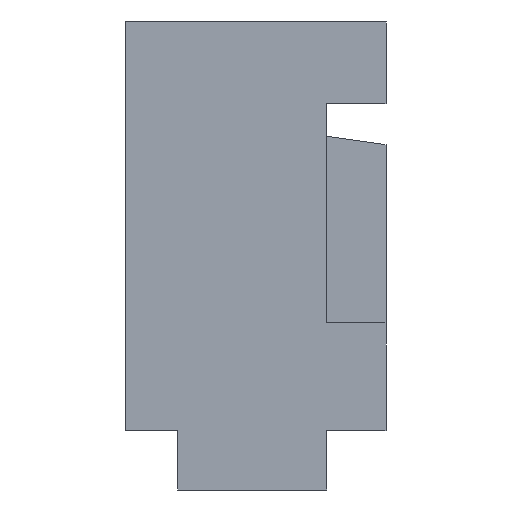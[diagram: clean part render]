
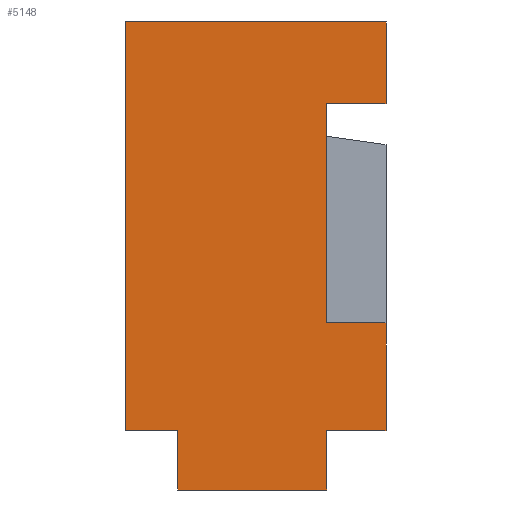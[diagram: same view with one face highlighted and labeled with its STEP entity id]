
A CAD part, left-side view. The second image highlights one B-rep face of the part: STEP entity #5148.
In plain terms, the highlighted planar face has unit normal (-1, 0, 0).
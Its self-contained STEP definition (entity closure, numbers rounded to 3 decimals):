
#5 = CARTESIAN_POINT ( 'NONE',  ( -2.262, 0.285, -2.75 ) ) ;
#29 = DIRECTION ( 'NONE',  ( 0., 0., -1. ) ) ;
#174 = LINE ( 'NONE', #10632, #3178 ) ;
#299 = EDGE_CURVE ( 'NONE', #7155, #11739, #6711, .T. ) ;
#1027 = EDGE_CURVE ( 'NONE', #9732, #8981, #9480, .T. ) ;
#1201 = CARTESIAN_POINT ( 'NONE',  ( -2.262, 0.985, -2.75 ) ) ;
#1521 = LINE ( 'NONE', #12054, #11514 ) ;
#1812 = DIRECTION ( 'NONE',  ( 0., 1., 0. ) ) ;
#1852 = ORIENTED_EDGE ( 'NONE', *, *, #4135, .T. ) ;
#2153 = VECTOR ( 'NONE', #11614, 1000. ) ;
#2236 = EDGE_LOOP ( 'NONE', ( #3797, #8852, #12982, #1852, #10588, #8800, #9438, #13349, #3747, #12592, #7078, #3391 ) ) ;
#2562 = DIRECTION ( 'NONE',  ( 0., 0., -1. ) ) ;
#2580 = VECTOR ( 'NONE', #12194, 1000. ) ;
#2684 = LINE ( 'NONE', #6857, #2580 ) ;
#2792 = VERTEX_POINT ( 'NONE', #12261 ) ;
#2901 = CARTESIAN_POINT ( 'NONE',  ( -2.262, 0.985, 2.75 ) ) ;
#3178 = VECTOR ( 'NONE', #12750, 1000. ) ;
#3209 = VECTOR ( 'NONE', #11601, 1000. ) ;
#3264 = LINE ( 'NONE', #1201, #3209 ) ;
#3391 = ORIENTED_EDGE ( 'NONE', *, *, #12675, .T. ) ;
#3747 = ORIENTED_EDGE ( 'NONE', *, *, #11140, .F. ) ;
#3797 = ORIENTED_EDGE ( 'NONE', *, *, #7932, .F. ) ;
#3800 = CARTESIAN_POINT ( 'NONE',  ( -2.262, 0.985, 2.75 ) ) ;
#3854 = CARTESIAN_POINT ( 'NONE',  ( -2.262, 0.985, 2.75 ) ) ;
#3963 = CARTESIAN_POINT ( 'NONE',  ( -2.262, -1.715, -1.3 ) ) ;
#4042 = CARTESIAN_POINT ( 'NONE',  ( -2.262, -2.515, 2.75 ) ) ;
#4135 = EDGE_CURVE ( 'NONE', #5778, #5904, #174, .T. ) ;
#4416 = VERTEX_POINT ( 'NONE', #5 ) ;
#4538 = EDGE_CURVE ( 'NONE', #12509, #4416, #8754, .T. ) ;
#4594 = CARTESIAN_POINT ( 'NONE',  ( -2.262, -2.515, 1.65 ) ) ;
#4644 = DIRECTION ( 'NONE',  ( 0., -1., 0. ) ) ;
#4830 = PLANE ( 'NONE',  #10845 ) ;
#5148 = ADVANCED_FACE ( 'NONE', ( #12147 ), #4830, .F. ) ;
#5193 = CARTESIAN_POINT ( 'NONE',  ( -2.262, 0.285, -3.55 ) ) ;
#5321 = LINE ( 'NONE', #5193, #2153 ) ;
#5476 = EDGE_CURVE ( 'NONE', #7155, #12509, #13105, .T. ) ;
#5519 = VERTEX_POINT ( 'NONE', #9876 ) ;
#5778 = VERTEX_POINT ( 'NONE', #12610 ) ;
#5904 = VERTEX_POINT ( 'NONE', #4594 ) ;
#6562 = EDGE_CURVE ( 'NONE', #9732, #10285, #9675, .T. ) ;
#6711 = LINE ( 'NONE', #10884, #7704 ) ;
#6842 = DIRECTION ( 'NONE',  ( 0., -1., 0. ) ) ;
#6857 = CARTESIAN_POINT ( 'NONE',  ( -2.262, -2.515, 2.75 ) ) ;
#7078 = ORIENTED_EDGE ( 'NONE', *, *, #6562, .T. ) ;
#7155 = VERTEX_POINT ( 'NONE', #2901 ) ;
#7704 = VECTOR ( 'NONE', #6842, 1000. ) ;
#7932 = EDGE_CURVE ( 'NONE', #2792, #11437, #1521, .T. ) ;
#8127 = DIRECTION ( 'NONE',  ( 0., 0., -1. ) ) ;
#8448 = CARTESIAN_POINT ( 'NONE',  ( -2.262, -1.715, -1.3 ) ) ;
#8463 = CARTESIAN_POINT ( 'NONE',  ( -2.262, -1.715, -3.55 ) ) ;
#8661 = DIRECTION ( 'NONE',  ( 0., 1., 0. ) ) ;
#8754 = LINE ( 'NONE', #9782, #11256 ) ;
#8800 = ORIENTED_EDGE ( 'NONE', *, *, #299, .F. ) ;
#8852 = ORIENTED_EDGE ( 'NONE', *, *, #12086, .F. ) ;
#8981 = VERTEX_POINT ( 'NONE', #9533 ) ;
#9041 = CARTESIAN_POINT ( 'NONE',  ( -2.262, -1.715, -2.75 ) ) ;
#9278 = CARTESIAN_POINT ( 'NONE',  ( -2.262, 0.985, -2.75 ) ) ;
#9438 = ORIENTED_EDGE ( 'NONE', *, *, #5476, .T. ) ;
#9480 = LINE ( 'NONE', #8463, #9711 ) ;
#9533 = CARTESIAN_POINT ( 'NONE',  ( -2.262, 0.285, -3.55 ) ) ;
#9616 = DIRECTION ( 'NONE',  ( 0., 0., 1. ) ) ;
#9675 = LINE ( 'NONE', #11935, #12569 ) ;
#9711 = VECTOR ( 'NONE', #8661, 1000. ) ;
#9732 = VERTEX_POINT ( 'NONE', #12372 ) ;
#9782 = CARTESIAN_POINT ( 'NONE',  ( -2.262, 0.985, -2.75 ) ) ;
#9876 = CARTESIAN_POINT ( 'NONE',  ( -2.262, -1.715, -1.3 ) ) ;
#9907 = VECTOR ( 'NONE', #29, 1000. ) ;
#10285 = VERTEX_POINT ( 'NONE', #9041 ) ;
#10333 = EDGE_CURVE ( 'NONE', #11739, #5904, #2684, .T. ) ;
#10588 = ORIENTED_EDGE ( 'NONE', *, *, #10333, .F. ) ;
#10632 = CARTESIAN_POINT ( 'NONE',  ( -2.262, -1.715, 1.65 ) ) ;
#10684 = VECTOR ( 'NONE', #11356, 1000. ) ;
#10845 = AXIS2_PLACEMENT_3D ( 'NONE', #3800, #11182, #1812 ) ;
#10884 = CARTESIAN_POINT ( 'NONE',  ( -2.262, 0.985, 2.75 ) ) ;
#11140 = EDGE_CURVE ( 'NONE', #8981, #4416, #5321, .T. ) ;
#11182 = DIRECTION ( 'NONE',  ( 1., 0., 0. ) ) ;
#11256 = VECTOR ( 'NONE', #4644, 1000. ) ;
#11280 = VECTOR ( 'NONE', #2562, 1000. ) ;
#11356 = DIRECTION ( 'NONE',  ( 0., -1., 0. ) ) ;
#11437 = VERTEX_POINT ( 'NONE', #12686 ) ;
#11514 = VECTOR ( 'NONE', #8127, 1000. ) ;
#11601 = DIRECTION ( 'NONE',  ( 0., -1., 0. ) ) ;
#11614 = DIRECTION ( 'NONE',  ( 0., 0., 1. ) ) ;
#11739 = VERTEX_POINT ( 'NONE', #4042 ) ;
#11935 = CARTESIAN_POINT ( 'NONE',  ( -2.262, -1.715, -3.55 ) ) ;
#12054 = CARTESIAN_POINT ( 'NONE',  ( -2.262, -2.515, 2.75 ) ) ;
#12086 = EDGE_CURVE ( 'NONE', #5519, #2792, #12512, .T. ) ;
#12147 = FACE_OUTER_BOUND ( 'NONE', #2236, .T. ) ;
#12194 = DIRECTION ( 'NONE',  ( 0., 0., -1. ) ) ;
#12261 = CARTESIAN_POINT ( 'NONE',  ( -2.262, -2.515, -1.3 ) ) ;
#12372 = CARTESIAN_POINT ( 'NONE',  ( -2.262, -1.715, -3.55 ) ) ;
#12509 = VERTEX_POINT ( 'NONE', #9278 ) ;
#12512 = LINE ( 'NONE', #3963, #10684 ) ;
#12545 = LINE ( 'NONE', #8448, #9907 ) ;
#12569 = VECTOR ( 'NONE', #9616, 1000. ) ;
#12592 = ORIENTED_EDGE ( 'NONE', *, *, #1027, .F. ) ;
#12610 = CARTESIAN_POINT ( 'NONE',  ( -2.262, -1.715, 1.65 ) ) ;
#12675 = EDGE_CURVE ( 'NONE', #10285, #11437, #3264, .T. ) ;
#12686 = CARTESIAN_POINT ( 'NONE',  ( -2.262, -2.515, -2.75 ) ) ;
#12750 = DIRECTION ( 'NONE',  ( 0., -1., 0. ) ) ;
#12982 = ORIENTED_EDGE ( 'NONE', *, *, #13085, .F. ) ;
#13085 = EDGE_CURVE ( 'NONE', #5778, #5519, #12545, .T. ) ;
#13105 = LINE ( 'NONE', #3854, #11280 ) ;
#13349 = ORIENTED_EDGE ( 'NONE', *, *, #4538, .T. ) ;
